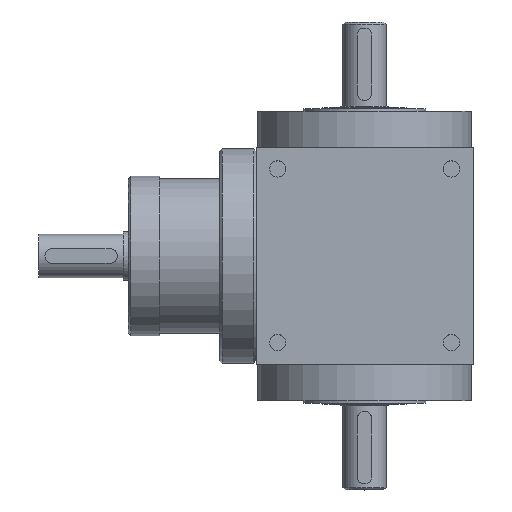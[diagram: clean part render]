
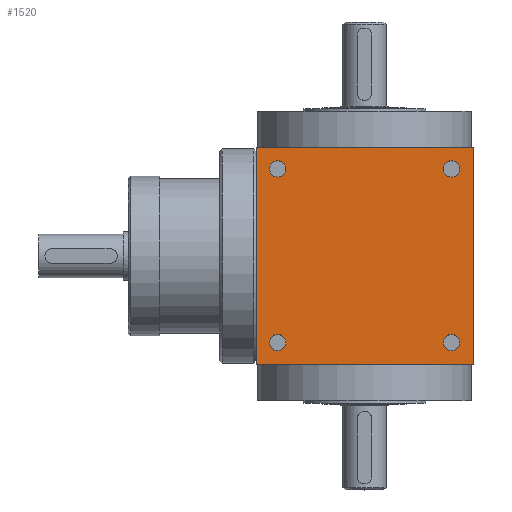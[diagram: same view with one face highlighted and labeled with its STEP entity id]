
A CAD part, top view. The second image highlights one B-rep face of the part: STEP entity #1520.
In plain terms, the highlighted planar face has unit normal (0, 0, 1).
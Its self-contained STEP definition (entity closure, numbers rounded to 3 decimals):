
#1520=ADVANCED_FACE('',(#1955,#1956,#1957,#1958,#1959),#1960,.T.);
#1955=FACE_BOUND('',#2987,.T.);
#1956=FACE_BOUND('',#2988,.T.);
#1957=FACE_BOUND('',#2989,.T.);
#1958=FACE_BOUND('',#2990,.T.);
#1959=FACE_OUTER_BOUND('',#2991,.T.);
#1960=PLANE('',#2992);
#2987=EDGE_LOOP('',(#4066));
#2988=EDGE_LOOP('',(#4067));
#2989=EDGE_LOOP('',(#4068));
#2990=EDGE_LOOP('',(#4069));
#2991=EDGE_LOOP('',(#4070,#4071,#4072,#4073));
#2992=AXIS2_PLACEMENT_3D('',#4074,#4075,#4076);
#4066=ORIENTED_EDGE('',*,*,#6236,.F.);
#4067=ORIENTED_EDGE('',*,*,#6237,.F.);
#4068=ORIENTED_EDGE('',*,*,#6238,.F.);
#4069=ORIENTED_EDGE('',*,*,#6239,.F.);
#4070=ORIENTED_EDGE('',*,*,#6217,.T.);
#4071=ORIENTED_EDGE('',*,*,#6240,.T.);
#4072=ORIENTED_EDGE('',*,*,#6241,.T.);
#4073=ORIENTED_EDGE('',*,*,#6242,.T.);
#4074=CARTESIAN_POINT('',(-45.0,-45.0,58.889));
#4075=DIRECTION('',(0.0,0.0,1.0));
#4076=DIRECTION('',(1.0,0.0,0.0));
#6217=EDGE_CURVE('',#6789,#6787,#6790,.T.);
#6236=EDGE_CURVE('',#6826,#6826,#6827,.T.);
#6237=EDGE_CURVE('',#6828,#6828,#6829,.T.);
#6238=EDGE_CURVE('',#6830,#6830,#6831,.T.);
#6239=EDGE_CURVE('',#6832,#6832,#6833,.T.);
#6240=EDGE_CURVE('',#6787,#6834,#6835,.T.);
#6241=EDGE_CURVE('',#6834,#6836,#6837,.T.);
#6242=EDGE_CURVE('',#6836,#6789,#6838,.T.);
#6787=VERTEX_POINT('',#7918);
#6789=VERTEX_POINT('',#7921);
#6790=LINE('',#7922,#7923);
#6826=VERTEX_POINT('',#7960);
#6827=CIRCLE('',#7961,3.375);
#6828=VERTEX_POINT('',#7962);
#6829=CIRCLE('',#7963,3.375);
#6830=VERTEX_POINT('',#7964);
#6831=CIRCLE('',#7965,3.375);
#6832=VERTEX_POINT('',#7966);
#6833=CIRCLE('',#7967,3.375);
#6834=VERTEX_POINT('',#7968);
#6835=LINE('',#7969,#7970);
#6836=VERTEX_POINT('',#7971);
#6837=LINE('',#7972,#7973);
#6838=LINE('',#7974,#7975);
#7918=CARTESIAN_POINT('',(-45.0,-45.0,58.889));
#7921=CARTESIAN_POINT('',(-45.0,45.0,58.889));
#7922=CARTESIAN_POINT('',(-45.0,45.0,58.889));
#7923=VECTOR('',#9399,1.0);
#7960=CARTESIAN_POINT('',(-36.0,-32.625,58.889));
#7961=AXIS2_PLACEMENT_3D('',#9452,#9453,#9454);
#7962=CARTESIAN_POINT('',(-36.0,39.375,58.889));
#7963=AXIS2_PLACEMENT_3D('',#9455,#9456,#9457);
#7964=CARTESIAN_POINT('',(36.0,-32.625,58.889));
#7965=AXIS2_PLACEMENT_3D('',#9458,#9459,#9460);
#7966=CARTESIAN_POINT('',(36.0,39.375,58.889));
#7967=AXIS2_PLACEMENT_3D('',#9461,#9462,#9463);
#7968=CARTESIAN_POINT('',(45.0,-45.0,58.889));
#7969=CARTESIAN_POINT('',(-45.0,-45.0,58.889));
#7970=VECTOR('',#9464,1.0);
#7971=CARTESIAN_POINT('',(45.0,45.0,58.889));
#7972=CARTESIAN_POINT('',(45.0,-45.0,58.889));
#7973=VECTOR('',#9465,1.0);
#7974=CARTESIAN_POINT('',(45.0,45.0,58.889));
#7975=VECTOR('',#9466,1.0);
#9399=DIRECTION('',(0.0,-1.0,0.0));
#9452=CARTESIAN_POINT('',(-36.0,-36.0,58.889));
#9453=DIRECTION('',(0.0,0.,1.0));
#9454=DIRECTION('',(0.0,1.0,0.));
#9455=CARTESIAN_POINT('',(-36.0,36.0,58.889));
#9456=DIRECTION('',(0.0,0.,1.0));
#9457=DIRECTION('',(0.0,1.0,0.));
#9458=CARTESIAN_POINT('',(36.0,-36.0,58.889));
#9459=DIRECTION('',(0.0,0.,1.0));
#9460=DIRECTION('',(0.0,1.0,0.));
#9461=CARTESIAN_POINT('',(36.0,36.0,58.889));
#9462=DIRECTION('',(0.0,0.,1.0));
#9463=DIRECTION('',(0.0,1.0,0.));
#9464=DIRECTION('',(1.0,0.0,0.0));
#9465=DIRECTION('',(0.0,1.0,0.0));
#9466=DIRECTION('',(-1.0,0.0,0.0));
